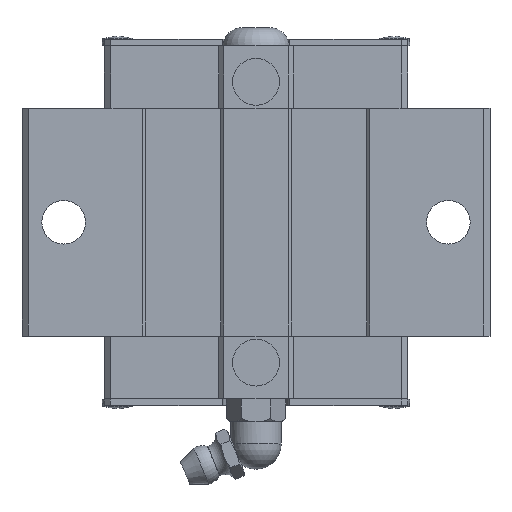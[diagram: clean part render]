
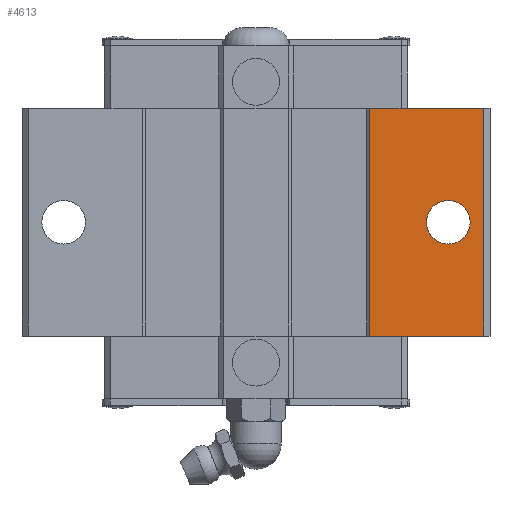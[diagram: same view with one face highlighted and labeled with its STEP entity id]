
A CAD part, top view. The second image highlights one B-rep face of the part: STEP entity #4613.
In plain terms, the highlighted planar face has unit normal (0, 0, 1).
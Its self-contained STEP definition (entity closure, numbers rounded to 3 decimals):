
#1897=VERTEX_POINT('',#5536);
#2255=EDGE_CURVE('',#1897,#5061,#5930,.T.);
#2315=VERTEX_POINT('',#5996);
#2791=EDGE_CURVE('',#1897,#2315,#6510,.T.);
#3153=VERTEX_POINT('',#6905);
#3413=VERTEX_POINT('',#7189);
#3419=EDGE_CURVE('',#3413,#3153,#7195,.T.);
#3611=EDGE_CURVE('',#2315,#4163,#7409,.T.);
#4071=EDGE_CURVE('',#4163,#5061,#7914,.T.);
#4163=VERTEX_POINT('',#8016);
#4613=ADVANCED_FACE('',(#8504,#8505),#8506,.T.);
#4641=EDGE_CURVE('',#3153,#3413,#8538,.T.);
#5061=VERTEX_POINT('',#8996);
#5536=CARTESIAN_POINT('',(35.5,46.35,33.0));
#5930=LINE('',#10239,#10240);
#5996=CARTESIAN_POINT('',(17.75,46.35,33.0));
#6510=LINE('',#11248,#11249);
#6905=CARTESIAN_POINT('',(26.6,28.6,33.0));
#7189=CARTESIAN_POINT('',(33.4,28.6,33.0));
#7195=CIRCLE('',#12389,3.4);
#7409=LINE('',#12726,#12727);
#7914=LINE('',#13466,#13467);
#8016=CARTESIAN_POINT('',(17.75,10.85,33.0));
#8504=FACE_OUTER_BOUND('',#14422,.T.);
#8505=FACE_BOUND('',#14423,.T.);
#8506=PLANE('',#14424);
#8538=CIRCLE('',#14481,3.4);
#8996=CARTESIAN_POINT('',(35.5,10.85,33.0));
#10239=CARTESIAN_POINT('',(35.5,46.35,33.0));
#10240=VECTOR('',#16406,1.0);
#11248=CARTESIAN_POINT('',(35.5,46.35,33.0));
#11249=VECTOR('',#16961,1.0);
#12389=AXIS2_PLACEMENT_3D('',#17691,#17692,#17693);
#12726=CARTESIAN_POINT('',(17.75,55.225,33.0));
#12727=VECTOR('',#17979,1.0);
#13466=CARTESIAN_POINT('',(35.5,10.85,33.0));
#13467=VECTOR('',#18565,1.0);
#14422=EDGE_LOOP('',(#19204,#19205,#19206,#19207));
#14423=EDGE_LOOP('',(#19208,#19209));
#14424=AXIS2_PLACEMENT_3D('',#19210,#19211,#19212);
#14481=AXIS2_PLACEMENT_3D('',#19247,#19248,#19249);
#16406=DIRECTION('',(0.0,-1.0,0.0));
#16961=DIRECTION('',(-1.0,0.0,0.0));
#17691=CARTESIAN_POINT('',(30.0,28.6,33.0));
#17692=DIRECTION('',(0.0,0.0,-1.0));
#17693=DIRECTION('',(1.0,0.0,0.0));
#17979=DIRECTION('',(0.0,-1.0,0.0));
#18565=DIRECTION('',(1.0,0.0,0.0));
#19204=ORIENTED_EDGE('',*,*,#3611,.T.);
#19205=ORIENTED_EDGE('',*,*,#4071,.T.);
#19206=ORIENTED_EDGE('',*,*,#2255,.F.);
#19207=ORIENTED_EDGE('',*,*,#2791,.T.);
#19208=ORIENTED_EDGE('',*,*,#3419,.T.);
#19209=ORIENTED_EDGE('',*,*,#4641,.T.);
#19210=CARTESIAN_POINT('',(-35.5,46.35,33.0));
#19211=DIRECTION('',(0.0,0.0,1.0));
#19212=DIRECTION('',(-1.0,0.0,0.0));
#19247=CARTESIAN_POINT('',(30.0,28.6,33.0));
#19248=DIRECTION('',(0.0,0.0,-1.0));
#19249=DIRECTION('',(1.0,0.0,0.0));
